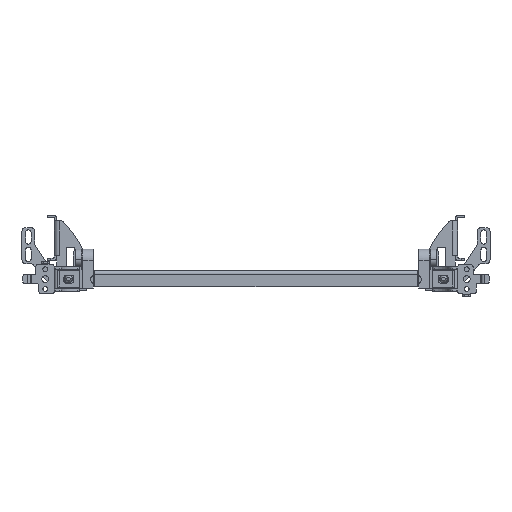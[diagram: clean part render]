
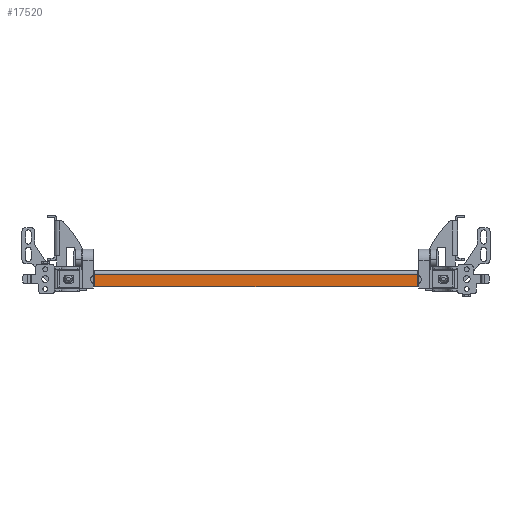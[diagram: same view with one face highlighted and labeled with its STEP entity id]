
A CAD part, front view. The second image highlights one B-rep face of the part: STEP entity #17520.
In plain terms, the highlighted planar face has unit normal (0, -1, 0).
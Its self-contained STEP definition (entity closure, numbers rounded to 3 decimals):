
#377 = VERTEX_POINT ( 'NONE', #11064 ) ;
#669 = VECTOR ( 'NONE', #17688, 1000. ) ;
#1450 = FACE_OUTER_BOUND ( 'NONE', #9669, .T. ) ;
#1455 = DIRECTION ( 'NONE',  ( 0., 0., -1. ) ) ;
#1895 = ORIENTED_EDGE ( 'NONE', *, *, #8085, .F. ) ;
#2294 = CARTESIAN_POINT ( 'NONE',  ( -204.5, -348., -21. ) ) ;
#2741 = CARTESIAN_POINT ( 'NONE',  ( 204.5, -348., -20. ) ) ;
#3164 = VERTEX_POINT ( 'NONE', #2294 ) ;
#3342 = ORIENTED_EDGE ( 'NONE', *, *, #17013, .F. ) ;
#3513 = AXIS2_PLACEMENT_3D ( 'NONE', #19646, #5976, #16364 ) ;
#3698 = ORIENTED_EDGE ( 'NONE', *, *, #6539, .T. ) ;
#4214 = DIRECTION ( 'NONE',  ( 0., 0., 1. ) ) ;
#5755 = EDGE_CURVE ( 'NONE', #13465, #3164, #16931, .T. ) ;
#5976 = DIRECTION ( 'NONE',  ( 0., 1., 0. ) ) ;
#6539 = EDGE_CURVE ( 'NONE', #10821, #12345, #7722, .T. ) ;
#6675 = VECTOR ( 'NONE', #1455, 1000. ) ;
#7436 = DIRECTION ( 'NONE',  ( 0., 0., 1. ) ) ;
#7673 = CARTESIAN_POINT ( 'NONE',  ( 205.5, -348., -2.5 ) ) ;
#7722 = CIRCLE ( 'NONE', #16638, 1. ) ;
#7934 = LINE ( 'NONE', #14014, #11165 ) ;
#8085 = EDGE_CURVE ( 'NONE', #377, #12345, #13457, .T. ) ;
#8411 = CARTESIAN_POINT ( 'NONE',  ( 205.5, -348., -5. ) ) ;
#8493 = LINE ( 'NONE', #8411, #669 ) ;
#8727 = DIRECTION ( 'NONE',  ( 0., -1., 0. ) ) ;
#8945 = PLANE ( 'NONE',  #3513 ) ;
#8994 = CARTESIAN_POINT ( 'NONE',  ( -205.5, -348., -20. ) ) ;
#9669 = EDGE_LOOP ( 'NONE', ( #10746, #13569, #15991, #3698, #1895, #3342 ) ) ;
#9854 = DIRECTION ( 'NONE',  ( -1., 0., 0. ) ) ;
#10369 = EDGE_CURVE ( 'NONE', #13465, #18127, #7934, .T. ) ;
#10746 = ORIENTED_EDGE ( 'NONE', *, *, #10369, .F. ) ;
#10821 = VERTEX_POINT ( 'NONE', #19377 ) ;
#11064 = CARTESIAN_POINT ( 'NONE',  ( 205.5, -348., -5. ) ) ;
#11165 = VECTOR ( 'NONE', #17120, 1000. ) ;
#12345 = VERTEX_POINT ( 'NONE', #15554 ) ;
#12570 = CARTESIAN_POINT ( 'NONE',  ( 205.5, -348., -21. ) ) ;
#13174 = DIRECTION ( 'NONE',  ( 0., -1., 0. ) ) ;
#13457 = LINE ( 'NONE', #7673, #6675 ) ;
#13465 = VERTEX_POINT ( 'NONE', #8994 ) ;
#13569 = ORIENTED_EDGE ( 'NONE', *, *, #5755, .T. ) ;
#14014 = CARTESIAN_POINT ( 'NONE',  ( -205.5, -348., -21. ) ) ;
#15554 = CARTESIAN_POINT ( 'NONE',  ( 205.5, -348., -20. ) ) ;
#15980 = CARTESIAN_POINT ( 'NONE',  ( -205.5, -348., -5. ) ) ;
#15991 = ORIENTED_EDGE ( 'NONE', *, *, #16356, .F. ) ;
#16356 = EDGE_CURVE ( 'NONE', #10821, #3164, #18745, .T. ) ;
#16364 = DIRECTION ( 'NONE',  ( 0., 0., 1. ) ) ;
#16638 = AXIS2_PLACEMENT_3D ( 'NONE', #2741, #13174, #4214 ) ;
#16931 = CIRCLE ( 'NONE', #18534, 1. ) ;
#17013 = EDGE_CURVE ( 'NONE', #18127, #377, #8493, .T. ) ;
#17120 = DIRECTION ( 'NONE',  ( 0., 0., 1. ) ) ;
#17520 = ADVANCED_FACE ( 'NONE', ( #1450 ), #8945, .F. ) ;
#17688 = DIRECTION ( 'NONE',  ( 1., 0., 0. ) ) ;
#18127 = VERTEX_POINT ( 'NONE', #15980 ) ;
#18534 = AXIS2_PLACEMENT_3D ( 'NONE', #19518, #8727, #7436 ) ;
#18745 = LINE ( 'NONE', #12570, #18808 ) ;
#18808 = VECTOR ( 'NONE', #9854, 1000. ) ;
#19377 = CARTESIAN_POINT ( 'NONE',  ( 204.5, -348., -21. ) ) ;
#19518 = CARTESIAN_POINT ( 'NONE',  ( -204.5, -348., -20. ) ) ;
#19646 = CARTESIAN_POINT ( 'NONE',  ( 0., -348., 0. ) ) ;
